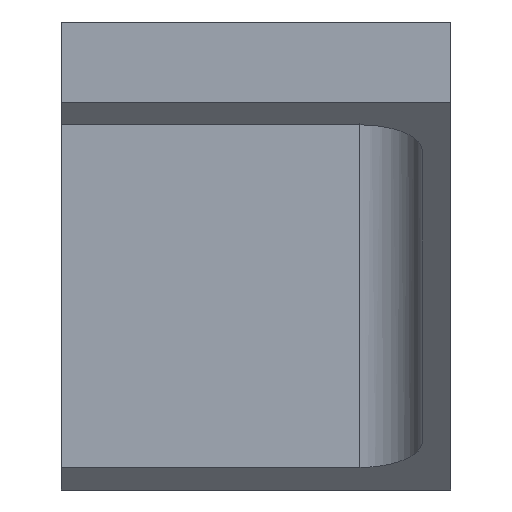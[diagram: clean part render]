
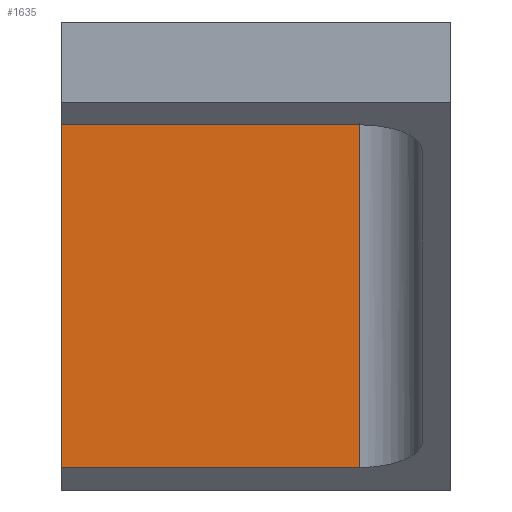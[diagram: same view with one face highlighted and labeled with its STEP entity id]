
A CAD part, left-side view. The second image highlights one B-rep face of the part: STEP entity #1635.
In plain terms, the highlighted planar face has unit normal (-1, 0, 0).
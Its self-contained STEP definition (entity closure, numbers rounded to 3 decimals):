
#10 = EDGE_CURVE ( 'NONE', #489, #2115, #2302, .T. ) ;
#373 = LINE ( 'NONE', #838, #621 ) ;
#464 = LINE ( 'NONE', #889, #1329 ) ;
#489 = VERTEX_POINT ( 'NONE', #854 ) ;
#541 = CARTESIAN_POINT ( 'NONE',  ( 7079.5, 3562.5, -4280. ) ) ;
#621 = VECTOR ( 'NONE', #2152, 1000. ) ;
#626 = AXIS2_PLACEMENT_3D ( 'NONE', #1909, #1941, #2329 ) ;
#738 = DIRECTION ( 'NONE',  ( 0., -1., 0. ) ) ;
#838 = CARTESIAN_POINT ( 'NONE',  ( 7079.5, 3562.5, -4190. ) ) ;
#854 = CARTESIAN_POINT ( 'NONE',  ( 7079.5, 3562.5, -4275.651 ) ) ;
#889 = CARTESIAN_POINT ( 'NONE',  ( 7079.5, 3620., -4280. ) ) ;
#969 = ORIENTED_EDGE ( 'NONE', *, *, #1834, .F. ) ;
#1008 = CARTESIAN_POINT ( 'NONE',  ( 7079.5, 3562.5, -4190. ) ) ;
#1012 = EDGE_CURVE ( 'NONE', #1876, #489, #2469, .T. ) ;
#1033 = VECTOR ( 'NONE', #2708, 1000. ) ;
#1051 = CARTESIAN_POINT ( 'NONE',  ( 7079.5, 3620., -4190. ) ) ;
#1197 = CARTESIAN_POINT ( 'NONE',  ( 7079.5, 3562.5, -4275.651 ) ) ;
#1329 = VECTOR ( 'NONE', #2645, 1000. ) ;
#1635 = ADVANCED_FACE ( 'NONE', ( #2170 ), #2775, .F. ) ;
#1682 = ORIENTED_EDGE ( 'NONE', *, *, #10, .T. ) ;
#1834 = EDGE_CURVE ( 'NONE', #2703, #2115, #373, .T. ) ;
#1876 = VERTEX_POINT ( 'NONE', #2326 ) ;
#1909 = CARTESIAN_POINT ( 'NONE',  ( 7079.5, 3562.5, -4280. ) ) ;
#1941 = DIRECTION ( 'NONE',  ( 1., 0., 0. ) ) ;
#2115 = VERTEX_POINT ( 'NONE', #1008 ) ;
#2152 = DIRECTION ( 'NONE',  ( 0., -1., 0. ) ) ;
#2170 = FACE_OUTER_BOUND ( 'NONE', #2828, .T. ) ;
#2302 = LINE ( 'NONE', #541, #1033 ) ;
#2326 = CARTESIAN_POINT ( 'NONE',  ( 7079.5, 3620., -4275.651 ) ) ;
#2329 = DIRECTION ( 'NONE',  ( 0., 1., 0. ) ) ;
#2392 = EDGE_CURVE ( 'NONE', #1876, #2703, #464, .T. ) ;
#2469 = LINE ( 'NONE', #1197, #2486 ) ;
#2476 = ORIENTED_EDGE ( 'NONE', *, *, #1012, .T. ) ;
#2486 = VECTOR ( 'NONE', #738, 1000. ) ;
#2645 = DIRECTION ( 'NONE',  ( 0., 0., 1. ) ) ;
#2703 = VERTEX_POINT ( 'NONE', #1051 ) ;
#2708 = DIRECTION ( 'NONE',  ( 0., 0., 1. ) ) ;
#2775 = PLANE ( 'NONE',  #626 ) ;
#2787 = ORIENTED_EDGE ( 'NONE', *, *, #2392, .F. ) ;
#2828 = EDGE_LOOP ( 'NONE', ( #2476, #1682, #969, #2787 ) ) ;
